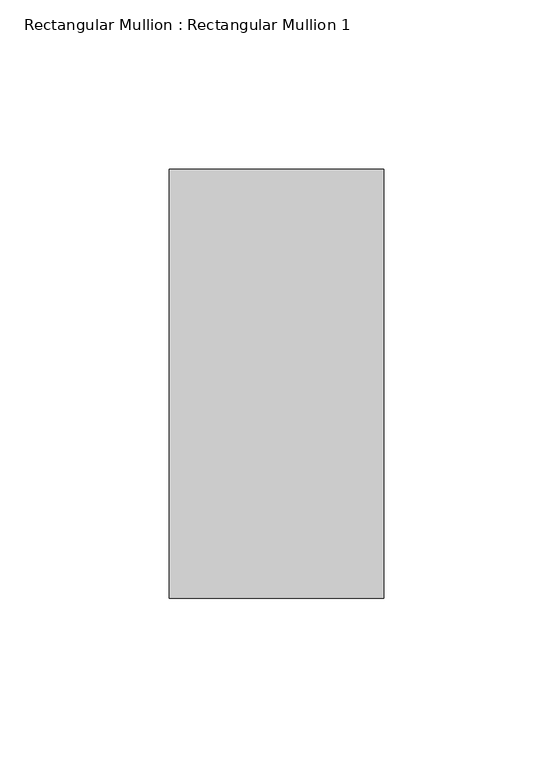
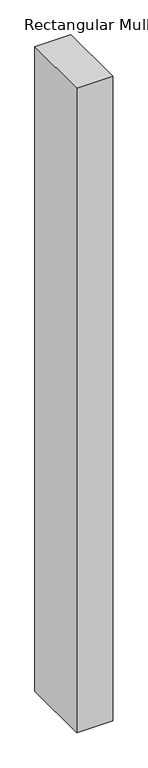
"""IFC4 building model written with IfcOpenShell, lengths in millimetres: member geometry, Rectangular Mullion : Rectangular Mullion 1."""

from ifc_helpers import new_model, si_unit, frame, origin, place, context, project, spatial, polyline, outline, extrude, source, transform, mapped, element, save


def rectangular_mullion_rectangular_mullion_1_8f8fed29(model_context):
    return source(origin(), model_context, "Body", "SweptSolid", [
        extrude(outline(polyline([(0.0, 63.5), (0.0, -63.5), (-63.5, -63.5), (-63.5, 63.5), (0.0, 63.5)])), frame((0.0, 0.0, -1200.6099633), z_axis=(0.0, 0.0, 1.0), x_axis=(1.0, 0.0, 0.0)), (0.0, 0.0, 1.0), 1200.6099633),
    ])


if __name__ == "__main__":
    model = new_model("IFC4")
    model_context = context("Model", 3, world=origin())
    ifc_project = project(units=[si_unit("LENGTHUNIT", "METRE", prefix="MILLI")], contexts=[model_context])
    site = spatial("IfcSite", under=ifc_project)
    building = spatial("IfcBuilding", under=site)
    placement = place(None, origin())
    rectangular_mullion_rectangular_mullion_1_shape = rectangular_mullion_rectangular_mullion_1_8f8fed29(model_context)
    element("IfcMember", 1, ObjectType="Rectangular Mullion : Rectangular Mullion 1", at=placement, inside=building, context=model_context, shape_type="MappedRepresentation", body=[
        mapped(rectangular_mullion_rectangular_mullion_1_shape, transform((0.0, 0.0, 0.0), x_axis=(1.0, 0.0, 0.0), y_axis=(0.0, 1.0, 0.0), z_axis=(0.0, 0.0, 1.0))),
    ])
    save(model, "model.ifc")
